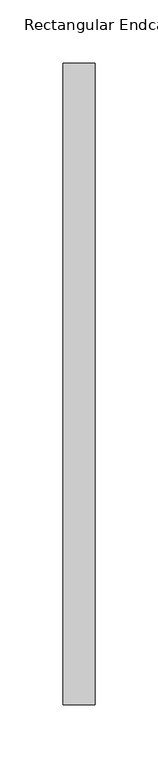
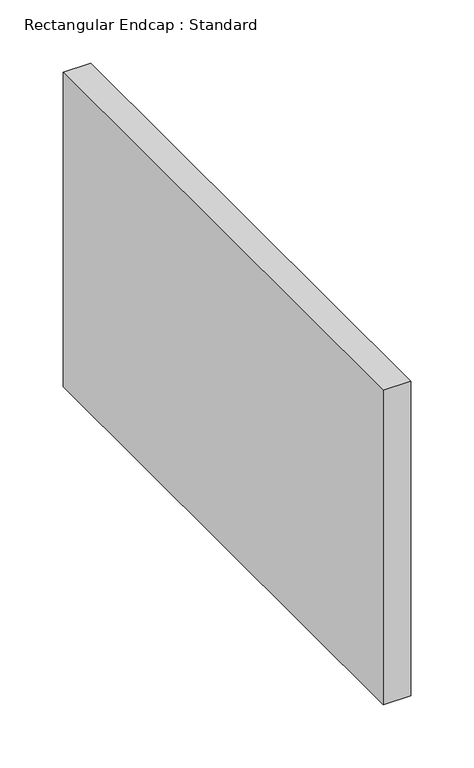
"""IFC4 building model written with IfcOpenShell, lengths in millimetres: duct fitting geometry, Rectangular Endcap : Standard."""

from ifc_helpers import new_model, si_unit, frame, origin, place, context, project, spatial, polyline, outline, extrude, source, transform, mapped, element, save


def rectangular_endcap_standard_fc39317d(model_context):
    return source(origin(), model_context, "Body", "SweptSolid", [
        extrude(outline(polyline([(0.0, -254.0), (0.0, 254.0), (25.4, 254.0), (25.4, -254.0), (0.0, -254.0)])), frame((0.0, 0.0, -152.4), z_axis=(0.0, 0.0, 1.0), x_axis=(1.0, 0.0, 0.0)), (0.0, 0.0, 1.0), 304.8),
    ])


if __name__ == "__main__":
    model = new_model("IFC4")
    model_context = context("Model", 3, world=origin())
    ifc_project = project(units=[si_unit("LENGTHUNIT", "METRE", prefix="MILLI")], contexts=[model_context])
    site = spatial("IfcSite", under=ifc_project)
    building = spatial("IfcBuilding", under=site)
    placement = place(None, origin())
    rectangular_endcap_standard_shape = rectangular_endcap_standard_fc39317d(model_context)
    element("IfcDuctFitting", 1, ObjectType="Rectangular Endcap : Standard", at=placement, inside=building, context=model_context, shape_type="MappedRepresentation", body=[
        mapped(rectangular_endcap_standard_shape, transform((0.0, 0.0, 0.0), x_axis=(1.0, 0.0, 0.0), y_axis=(0.0, 1.0, 0.0), z_axis=(0.0, 0.0, 1.0))),
    ])
    save(model, "model.ifc")
